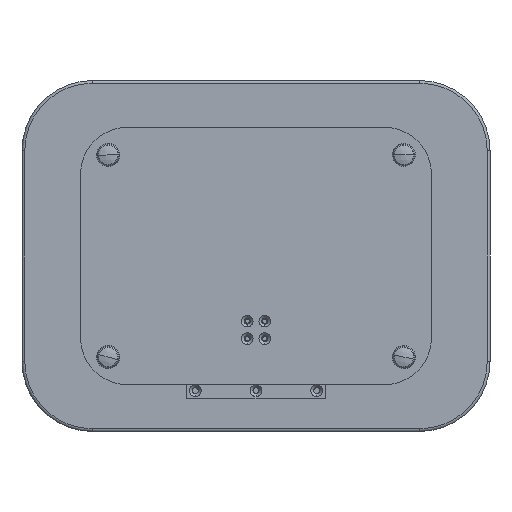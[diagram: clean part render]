
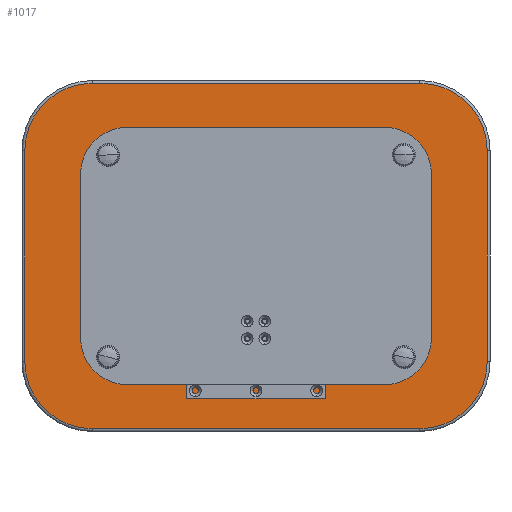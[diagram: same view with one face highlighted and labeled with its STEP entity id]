
A CAD part, front view. The second image highlights one B-rep face of the part: STEP entity #1017.
In plain terms, the highlighted planar face has unit normal (0, -1, 0).
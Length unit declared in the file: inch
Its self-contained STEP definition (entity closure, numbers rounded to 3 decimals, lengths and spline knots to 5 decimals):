
#590 = EDGE_LOOP ( 'NONE', ( #11218, #4289, #10604, #8403, #10536, #4127, #10576, #948 ) ) ;
#698 = LINE ( 'NONE', #6929, #11905 ) ;
#948 = ORIENTED_EDGE ( 'NONE', *, *, #1418, .F. ) ;
#1017 = ADVANCED_FACE ( 'NONE', ( #12329 ), #4264, .T. ) ;
#1275 = DIRECTION ( 'NONE',  ( 0., 0., 1. ) ) ;
#1418 = EDGE_CURVE ( 'NONE', #2088, #10773, #8619, .T. ) ;
#1814 = VERTEX_POINT ( 'NONE', #12517 ) ;
#1916 = CIRCLE ( 'NONE', #12737, 2.88189 ) ;
#1962 = DIRECTION ( 'NONE',  ( 0., -1., 0. ) ) ;
#2088 = VERTEX_POINT ( 'NONE', #10881 ) ;
#2102 = EDGE_CURVE ( 'NONE', #10323, #2088, #5908, .T. ) ;
#2147 = CIRCLE ( 'NONE', #13396, 2.88189 ) ;
#2316 = DIRECTION ( 'NONE',  ( 0., 0., 1. ) ) ;
#2431 = CARTESIAN_POINT ( 'NONE',  ( -7., 0., 4.5 ) ) ;
#2499 = CARTESIAN_POINT ( 'NONE',  ( 7., 0., -4.5 ) ) ;
#2538 = CARTESIAN_POINT ( 'NONE',  ( 7., 0., -7.38189 ) ) ;
#2566 = CARTESIAN_POINT ( 'NONE',  ( 9.88189, 0., -4.5 ) ) ;
#2956 = DIRECTION ( 'NONE',  ( 0., 0., -1. ) ) ;
#3324 = DIRECTION ( 'NONE',  ( 0., 1., 0. ) ) ;
#3577 = CARTESIAN_POINT ( 'NONE',  ( 9.88189, 0., 4.5 ) ) ;
#4127 = ORIENTED_EDGE ( 'NONE', *, *, #11195, .F. ) ;
#4264 = PLANE ( 'NONE',  #5143 ) ;
#4289 = ORIENTED_EDGE ( 'NONE', *, *, #6877, .F. ) ;
#4853 = CARTESIAN_POINT ( 'NONE',  ( 9.88189, 0., 4.5 ) ) ;
#4890 = DIRECTION ( 'NONE',  ( 0., 0., 1. ) ) ;
#4959 = CIRCLE ( 'NONE', #12563, 2.88189 ) ;
#5143 = AXIS2_PLACEMENT_3D ( 'NONE', #10296, #1962, #8392 ) ;
#5908 = LINE ( 'NONE', #12025, #7546 ) ;
#5918 = DIRECTION ( 'NONE',  ( 1., 0., 0. ) ) ;
#6772 = CARTESIAN_POINT ( 'NONE',  ( -7., 0., 7.38189 ) ) ;
#6877 = EDGE_CURVE ( 'NONE', #7939, #10323, #2147, .T. ) ;
#6929 = CARTESIAN_POINT ( 'NONE',  ( -7., 0., 7.38189 ) ) ;
#7359 = CARTESIAN_POINT ( 'NONE',  ( -7., 0., -7.38189 ) ) ;
#7505 = VECTOR ( 'NONE', #11958, 39.37008 ) ;
#7546 = VECTOR ( 'NONE', #4890, 39.37008 ) ;
#7615 = VERTEX_POINT ( 'NONE', #2566 ) ;
#7939 = VERTEX_POINT ( 'NONE', #7359 ) ;
#8150 = CARTESIAN_POINT ( 'NONE',  ( -7., 0., -4.5 ) ) ;
#8287 = EDGE_CURVE ( 'NONE', #10773, #1814, #698, .T. ) ;
#8392 = DIRECTION ( 'NONE',  ( 0., 0., -1. ) ) ;
#8403 = ORIENTED_EDGE ( 'NONE', *, *, #13034, .F. ) ;
#8619 = CIRCLE ( 'NONE', #12307, 2.88189 ) ;
#8657 = DIRECTION ( 'NONE',  ( 0., 1., 0. ) ) ;
#8960 = VECTOR ( 'NONE', #2956, 39.37008 ) ;
#9064 = LINE ( 'NONE', #4853, #8960 ) ;
#9170 = CARTESIAN_POINT ( 'NONE',  ( -9.88189, 0., -4.5 ) ) ;
#9285 = VERTEX_POINT ( 'NONE', #3577 ) ;
#9318 = DIRECTION ( 'NONE',  ( 0., 0., 1. ) ) ;
#10114 = EDGE_CURVE ( 'NONE', #11133, #7939, #11824, .T. ) ;
#10296 = CARTESIAN_POINT ( 'NONE',  ( 0., 0., 0. ) ) ;
#10323 = VERTEX_POINT ( 'NONE', #9170 ) ;
#10536 = ORIENTED_EDGE ( 'NONE', *, *, #13356, .F. ) ;
#10567 = DIRECTION ( 'NONE',  ( 0., 1., 0. ) ) ;
#10576 = ORIENTED_EDGE ( 'NONE', *, *, #8287, .F. ) ;
#10604 = ORIENTED_EDGE ( 'NONE', *, *, #10114, .F. ) ;
#10773 = VERTEX_POINT ( 'NONE', #6772 ) ;
#10881 = CARTESIAN_POINT ( 'NONE',  ( -9.88189, 0., 4.5 ) ) ;
#11133 = VERTEX_POINT ( 'NONE', #11400 ) ;
#11195 = EDGE_CURVE ( 'NONE', #1814, #9285, #1916, .T. ) ;
#11218 = ORIENTED_EDGE ( 'NONE', *, *, #2102, .F. ) ;
#11400 = CARTESIAN_POINT ( 'NONE',  ( 7., 0., -7.38189 ) ) ;
#11420 = DIRECTION ( 'NONE',  ( 0., 1., 0. ) ) ;
#11600 = CARTESIAN_POINT ( 'NONE',  ( 7., 0., 4.5 ) ) ;
#11824 = LINE ( 'NONE', #2538, #7505 ) ;
#11905 = VECTOR ( 'NONE', #5918, 39.37008 ) ;
#11917 = DIRECTION ( 'NONE',  ( 0., 0., 1. ) ) ;
#11958 = DIRECTION ( 'NONE',  ( -1., 0., 0. ) ) ;
#12025 = CARTESIAN_POINT ( 'NONE',  ( -9.88189, 0., -4.5 ) ) ;
#12307 = AXIS2_PLACEMENT_3D ( 'NONE', #2431, #10567, #1275 ) ;
#12329 = FACE_OUTER_BOUND ( 'NONE', #590, .T. ) ;
#12517 = CARTESIAN_POINT ( 'NONE',  ( 7., 0., 7.38189 ) ) ;
#12563 = AXIS2_PLACEMENT_3D ( 'NONE', #2499, #8657, #11917 ) ;
#12737 = AXIS2_PLACEMENT_3D ( 'NONE', #11600, #3324, #2316 ) ;
#13034 = EDGE_CURVE ( 'NONE', #7615, #11133, #4959, .T. ) ;
#13356 = EDGE_CURVE ( 'NONE', #9285, #7615, #9064, .T. ) ;
#13396 = AXIS2_PLACEMENT_3D ( 'NONE', #8150, #11420, #9318 ) ;
